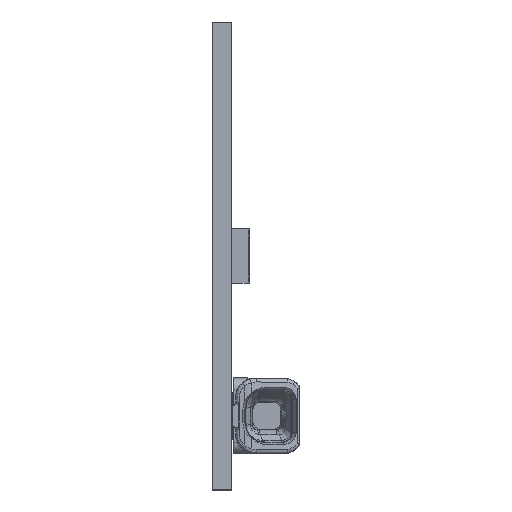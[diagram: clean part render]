
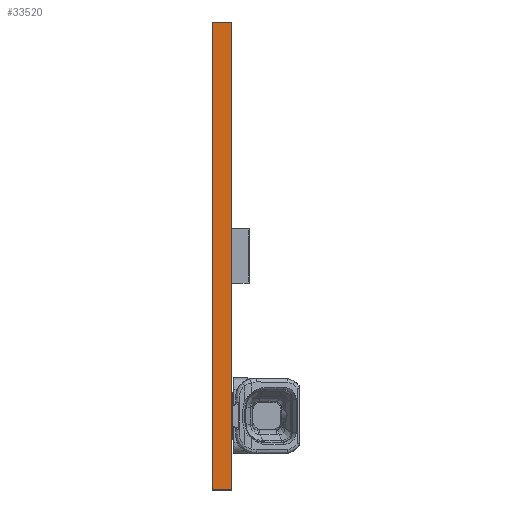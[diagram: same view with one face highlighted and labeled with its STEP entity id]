
A CAD part, left-side view. The second image highlights one B-rep face of the part: STEP entity #33520.
In plain terms, the highlighted planar face has unit normal (-1, 0, 0).
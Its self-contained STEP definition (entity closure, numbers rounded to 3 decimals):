
#1034=LINE('',#44524,#4242);
#1058=LINE('',#44601,#4266);
#1083=LINE('',#44660,#4291);
#1084=LINE('',#44662,#4292);
#4242=VECTOR('',#37173,1000.);
#4266=VECTOR('',#37227,1000.);
#4291=VECTOR('',#37298,1000.);
#4292=VECTOR('',#37301,1000.);
#7876=ORIENTED_EDGE('',*,*,#15262,.F.);
#7877=ORIENTED_EDGE('',*,*,#15330,.F.);
#7878=ORIENTED_EDGE('',*,*,#15300,.T.);
#7879=ORIENTED_EDGE('',*,*,#15329,.T.);
#15262=EDGE_CURVE('',#19056,#19057,#1034,.T.);
#15300=EDGE_CURVE('',#19095,#19094,#1058,.T.);
#15329=EDGE_CURVE('',#19094,#19057,#1083,.T.);
#15330=EDGE_CURVE('',#19095,#19056,#1084,.T.);
#19056=VERTEX_POINT('',#44523);
#19057=VERTEX_POINT('',#44525);
#19094=VERTEX_POINT('',#44600);
#19095=VERTEX_POINT('',#44602);
#21813=EDGE_LOOP('',(#7876,#7877,#7878,#7879));
#23479=FACE_BOUND('',#21813,.T.);
#25033=PLANE('',#35040);
#33520=ADVANCED_FACE('',(#23479),#25033,.T.);
#35040=AXIS2_PLACEMENT_3D('',#44661,#37299,#37300);
#37173=DIRECTION('',(0.,0.,-1.));
#37227=DIRECTION('',(0.,0.,-1.));
#37298=DIRECTION('',(0.,-1.,0.));
#37299=DIRECTION('',(-1.,0.,0.));
#37300=DIRECTION('',(0.,0.,1.));
#37301=DIRECTION('',(0.,-1.,0.));
#44523=CARTESIAN_POINT('',(-140.,0.,12.));
#44524=CARTESIAN_POINT('',(-140.,0.,12.));
#44525=CARTESIAN_POINT('',(-140.,0.,-12.));
#44600=CARTESIAN_POINT('',(-140.,1.,-12.));
#44601=CARTESIAN_POINT('',(-140.,1.,12.));
#44602=CARTESIAN_POINT('',(-140.,1.,12.));
#44660=CARTESIAN_POINT('',(-140.,1.,-12.));
#44661=CARTESIAN_POINT('',(-140.,1.,12.));
#44662=CARTESIAN_POINT('',(-140.,1.,12.));
